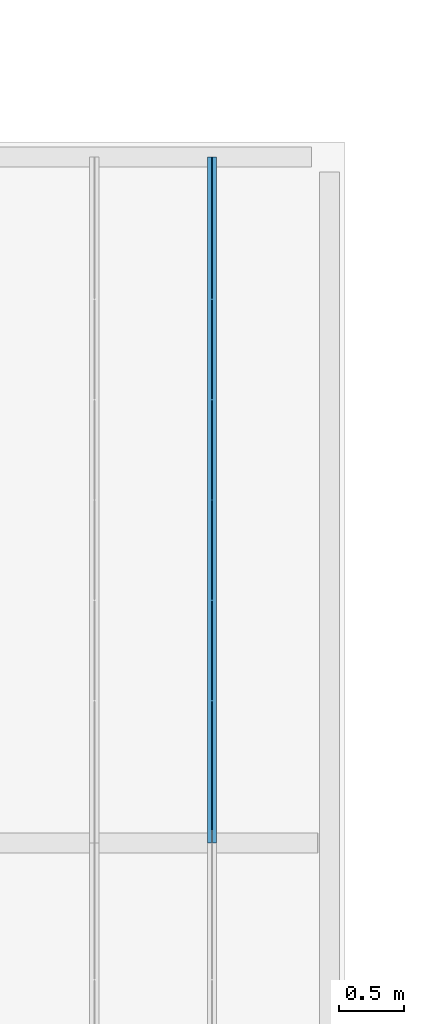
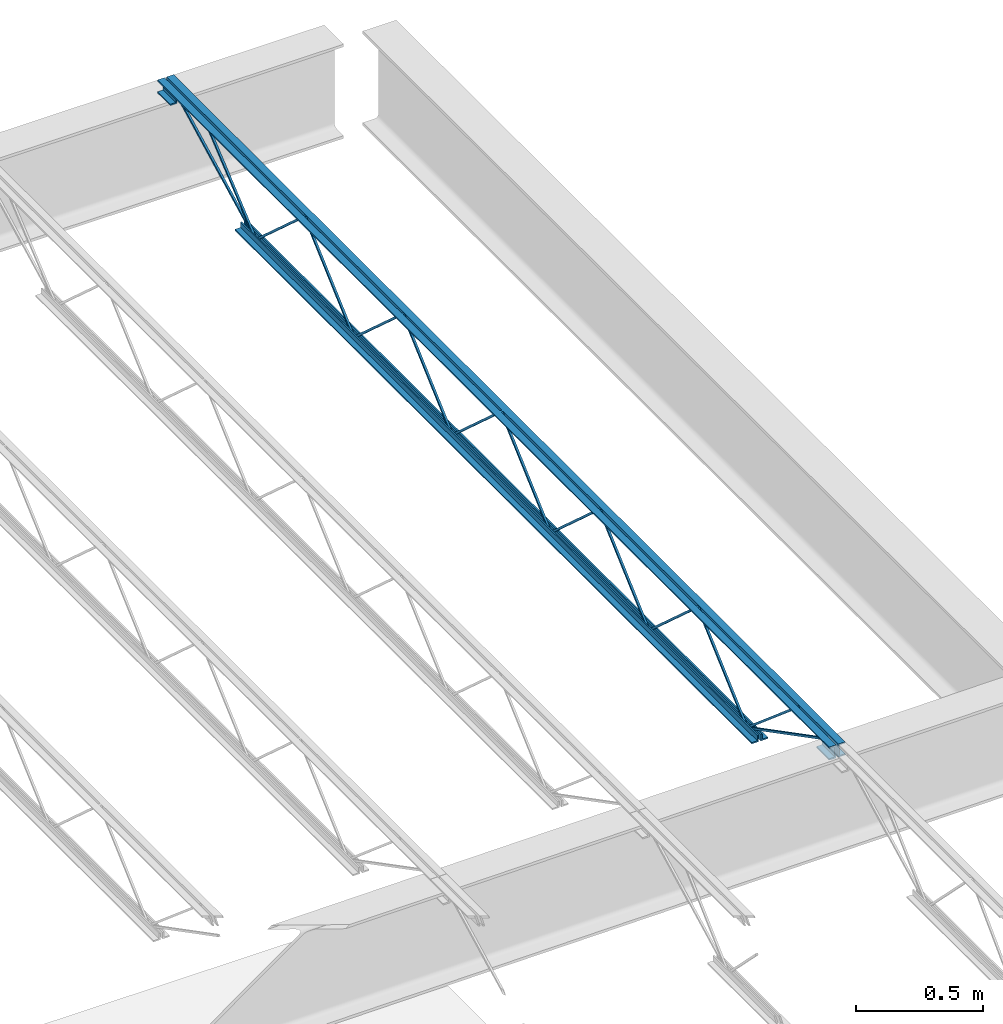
# One storey, part 75 of 75: 1 beam.
"""IFC2X3 building model written with IfcOpenShell, lengths in metres."""

from ifc_helpers import new_model, entity, si_unit, converted_unit, frame, origin, place, context, project, spatial, face_set, surface_model, element, save


model = new_model("IFC2X3")

# Units and contexts
model_context = context("Model", 3, precision=1e-09, world=origin())
plan_context = context("Plan", 3, precision=1e-09, world=origin())
ifc_project = project(units=[si_unit("LENGTHUNIT", "METRE"), si_unit("AREAUNIT", "SQUARE_METRE"), si_unit("VOLUMEUNIT", "CUBIC_METRE"), converted_unit("PLANEANGLEUNIT", "DEGREE", entity("IfcRatioMeasure", 0.01745329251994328), si_unit("PLANEANGLEUNIT", "RADIAN"), dimensions=[0, 0, 0, 0, 0, 0, 0]), si_unit("TIMEUNIT", "SECOND")], contexts=[model_context, plan_context])

# Site, building, storey
site_placement = place(None, origin())
site = spatial("IfcSite", under=ifc_project, at=site_placement, Name="Default", CompositionType="ELEMENT")
building_placement = place(site_placement, origin())
building = spatial("IfcBuilding", under=site, at=building_placement, CompositionType="ELEMENT")
storey_placement = place(building_placement, origin())
storey = spatial("IfcBuildingStorey", under=building, at=storey_placement, Name="First Floor", CompositionType="ELEMENT", Elevation=-3.531500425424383e-13)

# Beam
beam_placement = place(storey_placement, frame((-0.9467499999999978, 44.78049999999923, 4.112000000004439), z_axis=(0.0, 0.0, 1.0), x_axis=(-1.0, 0.0, 0.0)))
element("IfcBeam", 1, at=beam_placement, inside=storey, Name="M_K-Series Bar Joist-Rod Web:14K1:14K1", ObjectType="M_K-Series Bar Joist-Rod Web:14K1", context=model_context, shape_type="SurfaceModel", body=[
    surface_model("IfcFaceBasedSurfaceModel", [(-0.03200000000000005, -2.266000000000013, 0.01110000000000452), (-0.04150000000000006, -2.266000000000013, 0.01110000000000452), (-0.04150000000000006, -2.266000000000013, 0.001600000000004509), (-0.03200000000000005, -2.266000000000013, 0.001600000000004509), (-0.04150000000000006, -2.264645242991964, 0.01110000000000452), (-0.03200000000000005, -2.264645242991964, 0.01110000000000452), (-0.04150000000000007, -2.26100475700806, 0.001600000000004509), (-0.04150000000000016, -1.878854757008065, 0.3449000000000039), (-0.04150000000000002, -1.876145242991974, 0.3449000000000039), (-0.04150000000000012, -1.493995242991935, 0.001600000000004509), (-0.04150000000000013, -1.489000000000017, 0.001600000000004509), (-0.04149999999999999, -1.489000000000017, 0.01110000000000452), (-0.04150000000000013, -1.490354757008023, 0.01110000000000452), (-0.04150000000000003, -1.872504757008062, 0.3544000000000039), (-0.04150000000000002, -1.882495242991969, 0.3544000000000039), (-0.03200000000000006, -2.26100475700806, 0.001600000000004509), (-0.03200000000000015, -1.878854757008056, 0.3449000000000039), (-0.03200000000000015, -1.876145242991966, 0.3449000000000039), (-0.03200000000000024, -1.493995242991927, 0.001600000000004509), (-0.03200000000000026, -1.489000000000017, 0.001600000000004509), (-0.03200000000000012, -1.489000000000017, 0.01110000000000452), (-0.03200000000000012, -1.490354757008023, 0.01110000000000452), (-0.03200000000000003, -1.872504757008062, 0.3544000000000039), (-0.03200000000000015, -1.882495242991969, 0.3544000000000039), (-0.03200000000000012, -3.04300000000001, 0.01110000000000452), (-0.04150000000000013, -3.04300000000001, 0.01110000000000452), (-0.04150000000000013, -3.04300000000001, 0.001600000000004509), (-0.03200000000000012, -3.04300000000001, 0.001600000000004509), (-0.04150000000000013, -3.041645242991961, 0.01110000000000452), (-0.03200000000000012, -3.041645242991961, 0.01110000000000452), (-0.04150000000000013, -3.038004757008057, 0.001600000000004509), (-0.04150000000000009, -2.655854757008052, 0.3449000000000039), (-0.04150000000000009, -2.653145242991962, 0.3449000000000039), (-0.04150000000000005, -2.270995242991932, 0.001600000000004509), (-0.04150000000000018, -2.26735475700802, 0.01110000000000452), (-0.0415000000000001, -2.649504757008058, 0.3544000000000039), (-0.04150000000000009, -2.659495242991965, 0.3544000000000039), (-0.03200000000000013, -3.038004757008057, 0.001600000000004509), (-0.03200000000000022, -2.655854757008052, 0.3449000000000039), (-0.03200000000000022, -2.653145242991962, 0.3449000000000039), (-0.03200000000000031, -2.270995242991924, 0.001600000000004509), (-0.03200000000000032, -2.266000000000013, 0.001600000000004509), (-0.03200000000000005, -2.26735475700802, 0.01110000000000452), (-0.03200000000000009, -2.649504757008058, 0.3544000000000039), (-0.03200000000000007, -2.659495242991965, 0.3544000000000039), (-0.03200000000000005, -3.820000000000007, 0.01110000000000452), (-0.04150000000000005, -3.820000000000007, 0.01110000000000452), (-0.04150000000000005, -3.820000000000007, 0.001600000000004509), (-0.03200000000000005, -3.820000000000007, 0.001600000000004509), (-0.04150000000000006, -3.818645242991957, 0.01110000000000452), (-0.03200000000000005, -3.818645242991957, 0.01110000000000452), (-0.04150000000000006, -3.815004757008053, 0.001600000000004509), (-0.04150000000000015, -3.432854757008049, 0.3449000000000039), (-0.04150000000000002, -3.430145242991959, 0.3449000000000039), (-0.04150000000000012, -3.04799524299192, 0.001600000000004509), (-0.04150000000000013, -3.043000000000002, 0.001600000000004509), (-0.04149999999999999, -3.04300000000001, 0.01110000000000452), (-0.04150000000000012, -3.044354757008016, 0.01110000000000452), (-0.04150000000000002, -3.426504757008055, 0.3544000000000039), (-0.04150000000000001, -3.436495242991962, 0.3544000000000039), (-0.03200000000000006, -3.815004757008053, 0.001600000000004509), (-0.03200000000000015, -3.432854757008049, 0.3449000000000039), (-0.03200000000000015, -3.430145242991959, 0.3449000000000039), (-0.03200000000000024, -3.04799524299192, 0.001600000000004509), (-0.03200000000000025, -3.04300000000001, 0.001600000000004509), (-0.03200000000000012, -3.043000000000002, 0.01110000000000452), (-0.03200000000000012, -3.044354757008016, 0.01110000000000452), (-0.03200000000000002, -3.426504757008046, 0.3544000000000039), (-0.03200000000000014, -3.436495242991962, 0.3544000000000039), (-0.03200000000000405, -1.489000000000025, 0.01109999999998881), (-0.04150000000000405, -1.489000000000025, 0.01109999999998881), (-0.04150000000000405, -1.489000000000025, 0.001599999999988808), (-0.03200000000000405, -1.489000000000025, 0.001599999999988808), (-0.04150000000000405, -1.487645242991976, 0.01109999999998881), (-0.03200000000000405, -1.487645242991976, 0.01109999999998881), (-0.04150000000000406, -1.484004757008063, 0.001599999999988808), (-0.04150000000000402, -1.101854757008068, 0.3448999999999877), (-0.04150000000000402, -1.099145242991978, 0.3448999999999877), (-0.04150000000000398, -0.7169952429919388, 0.001599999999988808), (-0.04150000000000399, -0.7120000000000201, 0.001599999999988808), (-0.04150000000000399, -0.7120000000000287, 0.01109999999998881), (-0.04150000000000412, -0.7133547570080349, 0.01109999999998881), (-0.04150000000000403, -1.095504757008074, 0.3543999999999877), (-0.04150000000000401, -1.10549524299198, 0.3543999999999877), (-0.03200000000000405, -1.484004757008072, 0.001599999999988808), (-0.03200000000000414, -1.101854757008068, 0.3448999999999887), (-0.03200000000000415, -1.099145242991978, 0.3448999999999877), (-0.03200000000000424, -0.7169952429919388, 0.001599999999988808), (-0.03200000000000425, -0.7120000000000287, 0.001599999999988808), (-0.03200000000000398, -0.7120000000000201, 0.01109999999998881), (-0.03200000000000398, -0.7133547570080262, 0.01109999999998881), (-0.03200000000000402, -1.095504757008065, 0.3543999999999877), (-0.032000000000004, -1.10549524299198, 0.3543999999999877), (-0.03200000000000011, -4.597000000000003, 0.01110000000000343), (-0.04150000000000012, -4.597000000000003, 0.01110000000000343), (-0.04150000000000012, -4.597000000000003, 0.001600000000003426), (-0.03200000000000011, -4.597000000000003, 0.001600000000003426), (-0.04150000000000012, -4.595645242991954, 0.01110000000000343), (-0.03200000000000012, -4.595645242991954, 0.01110000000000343), (-0.04150000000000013, -4.592004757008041, 0.001600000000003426), (-0.04150000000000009, -4.209854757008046, 0.3449000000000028), (-0.04150000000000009, -4.207145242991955, 0.3449000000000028), (-0.04150000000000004, -3.824995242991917, 0.001600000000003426), (-0.04150000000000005, -3.819999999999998, 0.001600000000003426), (-0.04150000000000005, -3.820000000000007, 0.01110000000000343), (-0.04150000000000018, -3.821354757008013, 0.01110000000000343), (-0.04150000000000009, -4.203504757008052, 0.3544000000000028), (-0.04150000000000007, -4.213495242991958, 0.3544000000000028), (-0.03200000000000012, -4.592004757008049, 0.001600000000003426), (-0.03200000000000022, -4.209854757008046, 0.3449000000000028), (-0.03200000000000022, -4.207145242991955, 0.3449000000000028), (-0.03200000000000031, -3.824995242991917, 0.001600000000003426), (-0.03200000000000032, -3.820000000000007, 0.001600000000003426), (-0.03200000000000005, -3.819999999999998, 0.01110000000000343), (-0.03200000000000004, -3.821354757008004, 0.01110000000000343), (-0.03200000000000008, -4.203504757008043, 0.3544000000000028), (-0.03200000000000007, -4.21349524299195, 0.3544000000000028), (-0.04150000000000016, 0.0, 0.3560000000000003), (-0.07350000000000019, 0.0, 0.3560000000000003), (-0.07350000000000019, 0.0, 0.3494999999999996), (-0.04800000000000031, 0.0, 0.3494999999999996), (-0.04800000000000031, 0.0, 0.3239999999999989), (-0.04150000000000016, 0.0, 0.3239999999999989), (-0.03200000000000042, 0.0, 0.3560000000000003), (-0.03200000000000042, 0.0, 0.3239999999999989), (-0.02550000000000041, 0.0, 0.3239999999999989), (-0.02550000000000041, 0.0, 0.3494999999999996), (0.0, 0.0, 0.3494999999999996), (0.0, 0.0, 0.3560000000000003), (-0.04150000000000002, -5.309000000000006, 0.3560000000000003), (-0.07350000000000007, -5.309000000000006, 0.3560000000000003), (-0.07350000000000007, -5.309000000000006, 0.3494999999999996), (-0.04800000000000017, -5.309000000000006, 0.3494999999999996), (-0.04800000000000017, -5.309000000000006, 0.3239999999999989), (-0.04150000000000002, -5.309000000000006, 0.3239999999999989), (-0.03200000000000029, -5.309000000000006, 0.3560000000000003), (-0.03200000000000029, -5.309000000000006, 0.3239999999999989), (-0.02550000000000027, -5.309000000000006, 0.3239999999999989), (-0.02550000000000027, -5.309000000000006, 0.3494999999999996), (0.0, -5.309000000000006, 0.3494999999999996), (0.0, -5.309000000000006, 0.3560000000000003), (-0.03200000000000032, -5.20900000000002, 0.2924999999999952), (0.0, -5.20900000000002, 0.2924999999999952), (0.0, -5.20900000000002, 0.2989999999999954), (-0.02550000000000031, -5.20900000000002, 0.2989999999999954), (-0.02550000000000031, -5.20900000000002, 0.3239999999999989), (-0.03200000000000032, -5.20900000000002, 0.3239999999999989), (-0.07350000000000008, -5.20900000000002, 0.2924999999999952), (-0.04150000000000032, -5.20900000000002, 0.2924999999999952), (-0.04150000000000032, -5.20900000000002, 0.3239999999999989), (-0.04800000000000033, -5.20900000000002, 0.3239999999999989), (-0.04800000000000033, -5.20900000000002, 0.2989999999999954), (-0.07350000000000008, -5.20900000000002, 0.2989999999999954), (-0.03200000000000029, -5.309000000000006, 0.2924999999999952), (0.0, -5.309000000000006, 0.2924999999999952), (0.0, -5.309000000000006, 0.2989999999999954), (-0.02550000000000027, -5.309000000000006, 0.2989999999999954), (-0.07350000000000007, -5.309000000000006, 0.2924999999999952), (-0.04150000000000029, -5.309000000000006, 0.2924999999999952), (-0.04150000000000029, -5.309000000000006, 0.3239999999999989), (-0.04800000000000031, -5.309000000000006, 0.3239999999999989), (-0.04800000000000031, -5.309000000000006, 0.2989999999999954), (-0.07350000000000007, -5.309000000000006, 0.2989999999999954), (-0.04150000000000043, 0.0, 0.2924999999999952), (-0.04150000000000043, 0.0, 0.3239999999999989), (-0.04800000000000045, 0.0, 0.3239999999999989), (-0.04800000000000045, 0.0, 0.2989999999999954), (-0.07350000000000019, 0.0, 0.2989999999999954), (-0.07350000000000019, 0.0, 0.2924999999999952), (-0.03200000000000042, 0.0, 0.2924999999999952), (0.0, 0.0, 0.2924999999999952), (0.0, 0.0, 0.2989999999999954), (-0.02550000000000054, 0.0, 0.2989999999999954), (-0.02550000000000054, 0.0, 0.3239999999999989), (-0.0415000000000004, -0.1000000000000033, 0.2924999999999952), (-0.0415000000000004, -0.1000000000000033, 0.3239999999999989), (-0.04800000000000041, -0.1000000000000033, 0.3239999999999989), (-0.04800000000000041, -0.1000000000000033, 0.2989999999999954), (-0.07350000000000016, -0.1000000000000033, 0.2989999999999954), (-0.07350000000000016, -0.1000000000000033, 0.2924999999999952), (-0.03200000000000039, -0.1000000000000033, 0.2924999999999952), (0.0, -0.1000000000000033, 0.2924999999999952), (0.0, -0.1000000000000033, 0.2989999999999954), (-0.02550000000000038, -0.1000000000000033, 0.2989999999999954), (-0.02550000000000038, -0.1000000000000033, 0.3239999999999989), (-0.03200000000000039, -0.1000000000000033, 0.3239999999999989), (-0.04150000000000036, -0.6119999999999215, 0.0), (-0.04150000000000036, -0.6119999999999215, 0.03199999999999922), (-0.04800000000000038, -0.6119999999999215, 0.03199999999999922), (-0.04800000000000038, -0.6119999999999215, 0.006500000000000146), (-0.07350000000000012, -0.6119999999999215, 0.006500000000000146), (-0.07350000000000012, -0.6119999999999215, 0.0), (-0.03200000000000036, -0.6119999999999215, 0.0), (0.0, -0.6119999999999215, 0.0), (0.0, -0.6119999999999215, 0.006500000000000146), (-0.02550000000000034, -0.6119999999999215, 0.006500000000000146), (-0.02550000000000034, -0.6119999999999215, 0.03199999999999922), (-0.03200000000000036, -0.6119999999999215, 0.03199999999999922), (-0.04150000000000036, -4.696999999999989, 0.0), (-0.04150000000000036, -4.696999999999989, 0.03199999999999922), (-0.04800000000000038, -4.696999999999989, 0.03199999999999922), (-0.04800000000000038, -4.696999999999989, 0.006500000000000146), (-0.07350000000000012, -4.696999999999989, 0.006500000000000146), (-0.07350000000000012, -4.696999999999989, 0.0), (-0.03200000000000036, -4.696999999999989, 0.0), (0.0, -4.696999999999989, 0.0), (0.0, -4.696999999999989, 0.006500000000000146), (-0.02550000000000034, -4.696999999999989, 0.006500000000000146), (-0.02550000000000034, -4.696999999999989, 0.03199999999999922), (-0.03200000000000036, -4.696999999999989, 0.03199999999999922), (-0.03200000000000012, -4.594811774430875, 0.0105659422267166), (-0.04150000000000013, -4.594811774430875, 0.0105659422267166), (-0.04150000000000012, -4.599188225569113, 0.002134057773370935), (-0.03200000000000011, -4.599188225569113, 0.002134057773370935), (-0.03200000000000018, -5.207840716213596, 0.32875), (-0.03200000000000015, -5.308999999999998, 0.32875), (-0.03200000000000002, -5.308999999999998, 0.31925), (-0.03200000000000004, -5.210159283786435, 0.31925), (-0.04150000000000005, -5.210159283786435, 0.31925), (-0.04150000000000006, -5.207840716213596, 0.32875), (-0.04150000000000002, -5.308999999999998, 0.32875), (-0.04150000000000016, -5.309000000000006, 0.31925), (-0.03200000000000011, -5.005457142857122, 0.3417000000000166), (-0.04150000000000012, -5.005457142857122, 0.3417000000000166), (-0.04150000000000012, -5.005457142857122, 0.3322000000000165), (-0.03200000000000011, -5.005457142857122, 0.3322000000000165), (-0.04150000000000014, -4.991034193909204, 0.3417000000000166), (-0.03200000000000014, -4.991034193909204, 0.3417000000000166), (-0.04150000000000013, -4.994480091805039, 0.3322000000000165), (-0.04150000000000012, -4.600045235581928, 0.002704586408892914), (-0.04150000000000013, -4.593954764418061, 0.00999541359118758), (-0.03200000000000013, -4.994480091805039, 0.3322000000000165), (-0.03200000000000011, -4.600045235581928, 0.002704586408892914), (-0.03200000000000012, -4.593954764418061, 0.009995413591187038), (-0.03200000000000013, -0.09781177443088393, 0.3197840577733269), (-0.03200000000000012, -0.1021882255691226, 0.3282159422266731), (-0.04150000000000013, -0.1021882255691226, 0.3282159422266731), (-0.04150000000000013, -0.09781177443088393, 0.3197840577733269), (-0.03200000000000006, -0.7098117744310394, 0.002134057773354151), (-0.03200000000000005, -0.714188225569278, 0.01056594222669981), (-0.04150000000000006, -0.714188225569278, 0.01056594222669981), (-0.04150000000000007, -0.7098117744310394, 0.002134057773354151), (-0.03200000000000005, -0.3059055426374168, 0.3460340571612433), (-0.03200000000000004, -0.3120658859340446, 0.3532659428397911), (-0.04150000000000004, -0.3120658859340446, 0.3532659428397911), (-0.04150000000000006, -0.3059055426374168, 0.3460340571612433), (-0.03200000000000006, -0.7089198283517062, 0.002734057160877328), (-0.03200000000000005, -0.7150801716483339, 0.009965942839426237), (-0.04150000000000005, -0.7150801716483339, 0.009965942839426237), (-0.04150000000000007, -0.7089198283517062, 0.002734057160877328)], [face_set([[[0, 1, 2, 3]], [[1, 4, 5, 0]], [[2, 6, 7, 8, 9, 10, 11, 12, 13, 14, 4, 1]], [[3, 2, 6, 15]], [[0, 3, 15, 16, 17, 18, 19, 20, 21, 22, 23, 5]], [[4, 5, 23, 14]], [[15, 16, 7, 6]], [[14, 13, 22, 23]], [[16, 7, 8, 17]], [[13, 12, 21, 22]], [[17, 8, 9, 18]], [[20, 11, 10, 19]], [[12, 11, 20, 21]], [[18, 9, 10, 19]]]), face_set([[[24, 25, 26, 27]], [[25, 28, 29, 24]], [[26, 30, 31, 32, 33, 2, 1, 34, 35, 36, 28, 25]], [[27, 26, 30, 37]], [[24, 27, 37, 38, 39, 40, 41, 0, 42, 43, 44, 29]], [[28, 29, 44, 36]], [[37, 38, 31, 30]], [[36, 35, 43, 44]], [[38, 31, 32, 39]], [[35, 34, 42, 43]], [[39, 32, 33, 40]], [[0, 1, 2, 41]], [[34, 1, 0, 42]], [[40, 33, 2, 41]]]), face_set([[[45, 46, 47, 48]], [[46, 49, 50, 45]], [[47, 51, 52, 53, 54, 55, 56, 57, 58, 59, 49, 46]], [[48, 47, 51, 60]], [[45, 48, 60, 61, 62, 63, 64, 65, 66, 67, 68, 50]], [[49, 50, 68, 59]], [[60, 61, 52, 51]], [[59, 58, 67, 68]], [[61, 52, 53, 62]], [[58, 57, 66, 67]], [[62, 53, 54, 63]], [[65, 56, 55, 64]], [[57, 56, 65, 66]], [[63, 54, 55, 64]]]), face_set([[[69, 70, 71, 72]], [[70, 73, 74, 69]], [[71, 75, 76, 77, 78, 79, 80, 81, 82, 83, 73, 70]], [[72, 71, 75, 84]], [[69, 72, 84, 85, 86, 87, 88, 89, 90, 91, 92, 74]], [[73, 74, 92, 83]], [[84, 85, 76, 75]], [[83, 82, 91, 92]], [[85, 76, 77, 86]], [[82, 81, 90, 91]], [[86, 77, 78, 87]], [[89, 80, 79, 88]], [[81, 80, 89, 90]], [[87, 78, 79, 88]]]), face_set([[[93, 94, 95, 96]], [[94, 97, 98, 93]], [[95, 99, 100, 101, 102, 103, 104, 105, 106, 107, 97, 94]], [[96, 95, 99, 108]], [[93, 96, 108, 109, 110, 111, 112, 113, 114, 115, 116, 98]], [[97, 98, 116, 107]], [[108, 109, 100, 99]], [[107, 106, 115, 116]], [[109, 100, 101, 110]], [[106, 105, 114, 115]], [[110, 101, 102, 111]], [[113, 104, 103, 112]], [[105, 104, 113, 114]], [[111, 102, 103, 112]]]), face_set([[[117, 118, 119, 120, 121, 122]], [[123, 124, 125, 126, 127, 128]], [[129, 130, 131, 132, 133, 134]], [[135, 136, 137, 138, 139, 140]], [[122, 117, 129, 134]], [[121, 122, 134, 133]], [[120, 132, 133, 121]], [[119, 120, 132, 131]], [[118, 130, 131, 119]], [[117, 129, 130, 118]], [[128, 140, 135, 123]], [[127, 128, 140, 139]], [[126, 127, 139, 138]], [[125, 126, 138, 137]], [[124, 125, 137, 136]], [[123, 135, 136, 124]]]), face_set([[[141, 142, 143, 144, 145, 146]], [[147, 148, 149, 150, 151, 152]], [[153, 154, 155, 156, 137, 136]], [[157, 158, 159, 160, 161, 162]], [[146, 136, 153, 141]], [[145, 137, 136, 146]], [[144, 145, 137, 156]], [[143, 155, 156, 144]], [[142, 143, 155, 154]], [[141, 142, 154, 153]], [[152, 162, 157, 147]], [[151, 161, 162, 152]], [[150, 160, 161, 151]], [[149, 159, 160, 150]], [[148, 149, 159, 158]], [[147, 148, 158, 157]]]), face_set([[[163, 164, 165, 166, 167, 168]], [[169, 170, 171, 172, 173, 124]], [[174, 175, 176, 177, 178, 179]], [[180, 181, 182, 183, 184, 185]], [[168, 163, 174, 179]], [[167, 178, 179, 168]], [[166, 177, 178, 167]], [[165, 176, 177, 166]], [[164, 175, 176, 165]], [[163, 164, 175, 174]], [[124, 185, 180, 169]], [[173, 184, 185, 124]], [[172, 173, 184, 183]], [[171, 182, 183, 172]], [[170, 171, 182, 181]], [[169, 170, 181, 180]]]), face_set([[[186, 187, 188, 189, 190, 191]], [[192, 193, 194, 195, 196, 197]], [[198, 199, 200, 201, 202, 203]], [[204, 205, 206, 207, 208, 209]], [[191, 186, 198, 203]], [[190, 202, 203, 191]], [[189, 201, 202, 190]], [[188, 200, 201, 189]], [[187, 199, 200, 188]], [[186, 187, 199, 198]], [[197, 209, 204, 192]], [[196, 208, 209, 197]], [[195, 196, 208, 207]], [[194, 206, 207, 195]], [[193, 194, 206, 205]], [[192, 193, 205, 204]]]), face_set([[[210, 211, 212, 213]], [[213, 210, 214, 215, 216, 217]], [[212, 213, 217, 218]], [[211, 219, 220, 221, 218, 212]], [[210, 214, 219, 211]], [[215, 220, 221, 216]], [[218, 217, 216, 221]], [[214, 215, 220, 219]]]), face_set([[[222, 223, 224, 225]], [[223, 226, 227, 222]], [[224, 228, 229, 230, 226, 223]], [[225, 224, 228, 231]], [[222, 225, 231, 232, 233, 227]], [[233, 230, 229, 232]], [[226, 230, 233, 227]], [[231, 228, 229, 232]]]), face_set([[[234, 235, 236, 237]], [[238, 239, 240, 241]], [[237, 241, 238, 234]], [[236, 240, 241, 237]], [[235, 236, 240, 239]], [[234, 235, 239, 238]]]), face_set([[[242, 243, 244, 245]], [[246, 247, 248, 249]], [[245, 249, 246, 242]], [[244, 248, 249, 245]], [[243, 244, 248, 247]], [[242, 243, 247, 246]]])]),
])

save(model, "model.ifc")
